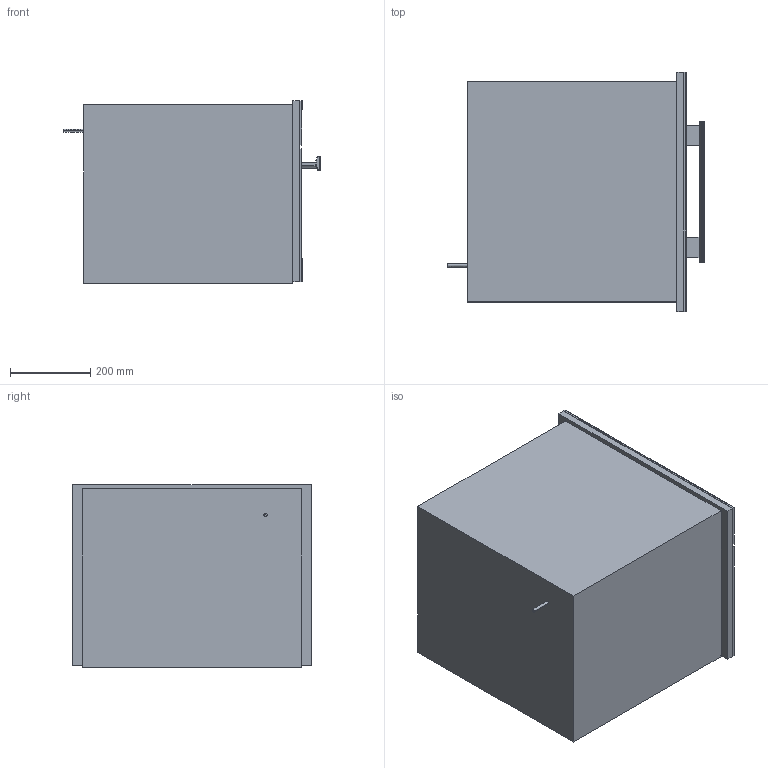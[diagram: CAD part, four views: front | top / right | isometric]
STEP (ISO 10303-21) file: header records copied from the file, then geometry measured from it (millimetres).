
FILE_DESCRIPTION(/* description */ (''),/* implementation_level */ '2;1');
FILE_NAME(/* name */ 'DG6800_CLST',/* time_stamp */ '2013-03-11T12:09:21+01:00',/* author */ (''),/* organization */ (''),/* preprocessor_version */ 'ST-DEVELOPER v10',/* originating_system */ '',/* authorisation */ '');
FILE_SCHEMA (('AUTOMOTIVE_DESIGN_CC2'));
Length unit declared in the file: millimetre
Products named in the file (1): 1
Bounding box: 639.3 x 595 x 455.24 mm (x, y, z)
Volume: 98028915.3 mm3; surface area: 3443753.8 mm2
Topology: 45 solids, 46 shells, 263 faces, 486 edges, 312 vertices
Faces by surface type: bspline 263
Entity records: 13045 total; most frequent: CARTESIAN_POINT 9707, ORIENTED_EDGE 952, EDGE_CURVE 482, VERTEX_POINT 312, EDGE_LOOP 267, ADVANCED_FACE 263, FACE_OUTER_BOUND 263, B_SPLINE_CURVE_WITH_KNOTS 166
